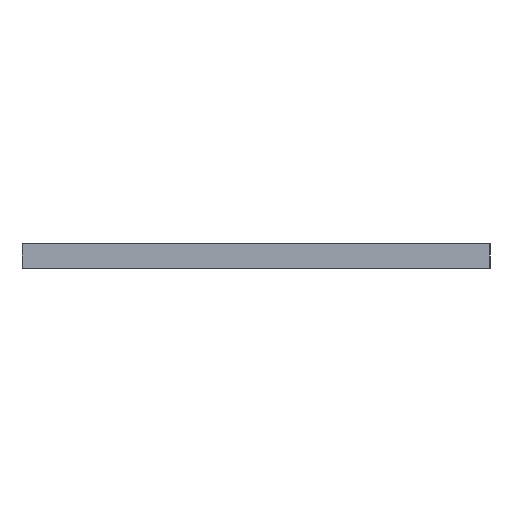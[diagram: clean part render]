
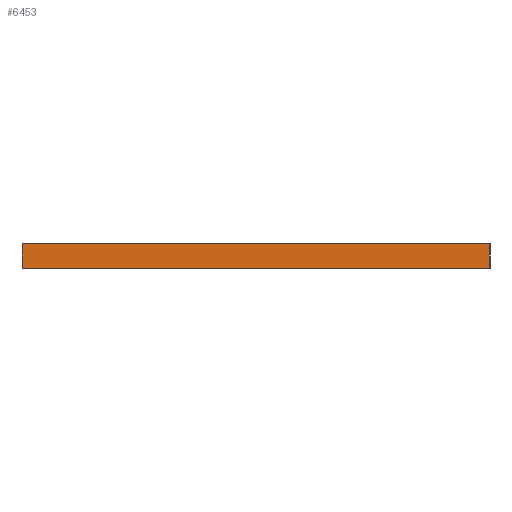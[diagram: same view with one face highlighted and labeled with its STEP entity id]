
A CAD part, left-side view. The second image highlights one B-rep face of the part: STEP entity #6453.
In plain terms, the highlighted planar face has unit normal (-1, 0, 0).
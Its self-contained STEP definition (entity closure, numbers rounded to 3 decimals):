
#62 = DIRECTION ( 'NONE',  ( 0., 0., 1. ) ) ;
#349 = EDGE_LOOP ( 'NONE', ( #1270, #2102, #2198, #4365 ) ) ;
#381 = DIRECTION ( 'NONE',  ( 0., 1., 0. ) ) ;
#609 = CARTESIAN_POINT ( 'NONE',  ( -0.005, -8.993, 1.6 ) ) ;
#1220 = VECTOR ( 'NONE', #6041, 1000. ) ;
#1270 = ORIENTED_EDGE ( 'NONE', *, *, #4030, .F. ) ;
#1320 = VECTOR ( 'NONE', #381, 1000. ) ;
#1683 = VERTEX_POINT ( 'NONE', #609 ) ;
#1735 = VERTEX_POINT ( 'NONE', #2222 ) ;
#1991 = CARTESIAN_POINT ( 'NONE',  ( -0.005, 0., 1.6 ) ) ;
#2102 = ORIENTED_EDGE ( 'NONE', *, *, #5047, .F. ) ;
#2136 = DIRECTION ( 'NONE',  ( -1., 0., 0. ) ) ;
#2198 = ORIENTED_EDGE ( 'NONE', *, *, #2747, .T. ) ;
#2222 = CARTESIAN_POINT ( 'NONE',  ( -0.005, -39.473, 0. ) ) ;
#2322 = VECTOR ( 'NONE', #6588, 1000. ) ;
#2640 = FACE_OUTER_BOUND ( 'NONE', #349, .T. ) ;
#2747 = EDGE_CURVE ( 'NONE', #5640, #1683, #3899, .T. ) ;
#3899 = LINE ( 'NONE', #1991, #1320 ) ;
#3972 = CARTESIAN_POINT ( 'NONE',  ( -0.005, -39.473, 1.6 ) ) ;
#3997 = CARTESIAN_POINT ( 'NONE',  ( -0.005, -8.993, 1.6 ) ) ;
#4026 = AXIS2_PLACEMENT_3D ( 'NONE', #5224, #2136, #62 ) ;
#4030 = EDGE_CURVE ( 'NONE', #1735, #4467, #5777, .T. ) ;
#4167 = CARTESIAN_POINT ( 'NONE',  ( -0.005, 0., 0. ) ) ;
#4249 = PLANE ( 'NONE',  #4026 ) ;
#4365 = ORIENTED_EDGE ( 'NONE', *, *, #5531, .T. ) ;
#4467 = VERTEX_POINT ( 'NONE', #4990 ) ;
#4581 = LINE ( 'NONE', #3972, #2322 ) ;
#4990 = CARTESIAN_POINT ( 'NONE',  ( -0.005, -8.993, 0. ) ) ;
#5047 = EDGE_CURVE ( 'NONE', #5640, #1735, #4581, .T. ) ;
#5164 = CARTESIAN_POINT ( 'NONE',  ( -0.005, -39.473, 1.6 ) ) ;
#5224 = CARTESIAN_POINT ( 'NONE',  ( -0.005, 0., 1.6 ) ) ;
#5531 = EDGE_CURVE ( 'NONE', #1683, #4467, #6078, .T. ) ;
#5640 = VERTEX_POINT ( 'NONE', #5164 ) ;
#5709 = DIRECTION ( 'NONE',  ( 0., 1., 0. ) ) ;
#5777 = LINE ( 'NONE', #4167, #6059 ) ;
#6041 = DIRECTION ( 'NONE',  ( 0., 0., -1. ) ) ;
#6059 = VECTOR ( 'NONE', #5709, 1000. ) ;
#6078 = LINE ( 'NONE', #3997, #1220 ) ;
#6453 = ADVANCED_FACE ( 'NONE', ( #2640 ), #4249, .T. ) ;
#6588 = DIRECTION ( 'NONE',  ( 0., 0., -1. ) ) ;
